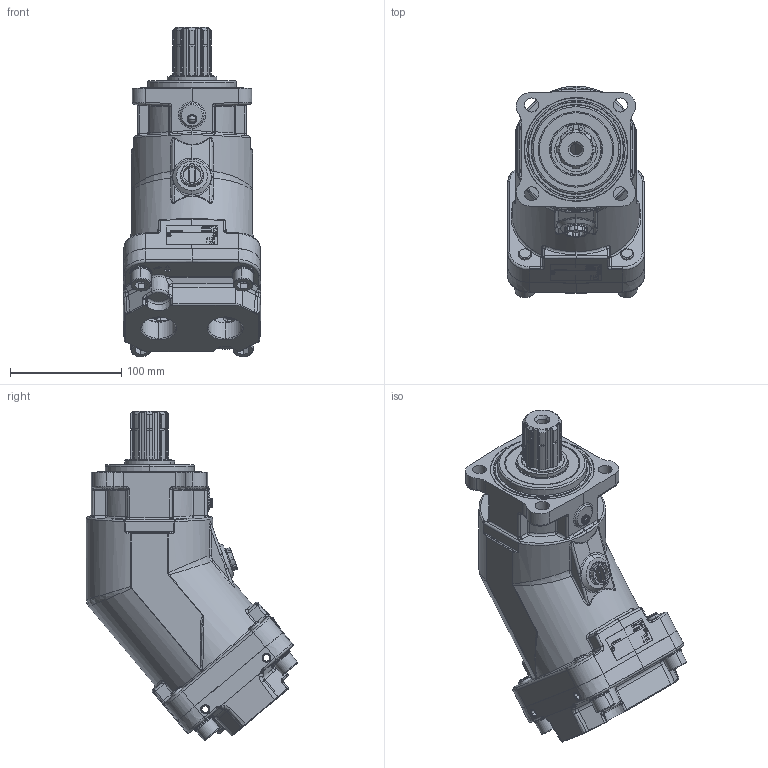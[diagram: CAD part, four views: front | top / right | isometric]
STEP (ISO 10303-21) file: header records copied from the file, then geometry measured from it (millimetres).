
FILE_DESCRIPTION (( 'STEP AP203' ), '1' );
FILE_NAME ('MXP108_092930A.STEP', '2009-12-23T15:54:32', ( 'ds' ), ( 'ds' ), 'SwSTEP 2.0', 'SolidWorks 2008', '' );
FILE_SCHEMA (( 'CONFIG_CONTROL_DESIGN' ));
Length unit declared in the file: millimetre
Products named in the file (1): MXP108_092930A
Bounding box: 123.5 x 190.3 x 296.66 mm (x, y, z)
Surface area: 174376 mm2 (no closed solid volume)
Topology: 0 solids, 65 shells, 1120 faces, 4191 edges, 3053 vertices
Faces by surface type: cylinder 369, plane 324, bspline 282, cone 75, torus 54, sphere 16
Entity records: 54960 total; most frequent: CARTESIAN_POINT 23434, ORIENTED_EDGE 6444, DIRECTION 5842, EDGE_CURVE 4150, VERTEX_POINT 3050, AXIS2_PLACEMENT_3D 2059, VECTOR 1724, LINE 1724
